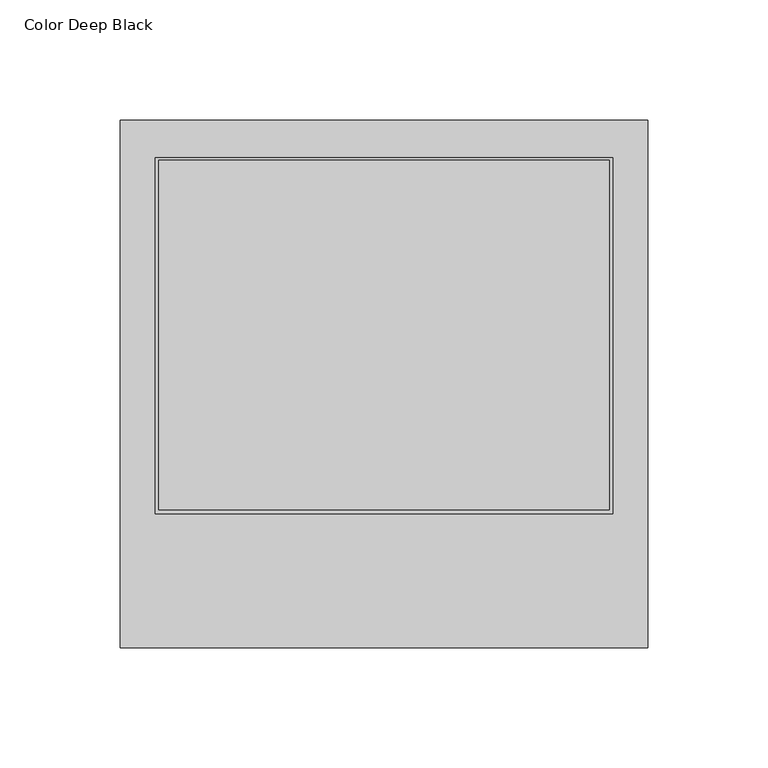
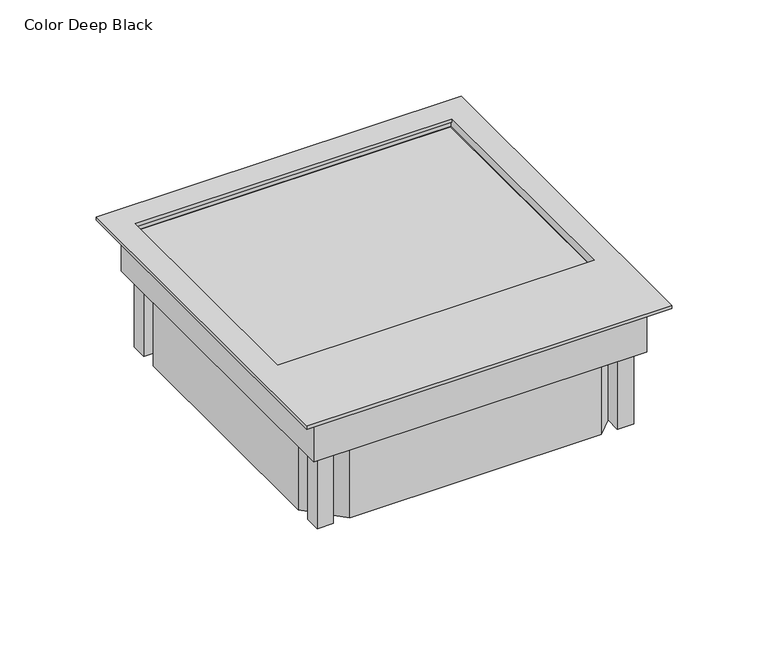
"""IFC4 building model written with IfcOpenShell, lengths in millimetres: proxy geometry, Electrical_Installation_Hager_VE-EE_Service-unit-VQ06 : Color Deep Black."""

from ifc_helpers import new_model, si_unit, frame, origin, place, context, project, spatial, polyline, outline, extrude, faceted_brep, source, transform, mapped, element, save


def color_deep_black_6ce427fe(model_context):
    return source(origin(), model_context, "Body", "SolidModel", [
        faceted_brep([(100.0, 100.0, -30.0), (100.0, -100.0, -30.0), (-100.0, -100.0, -30.0), (-100.0, 100.0, -30.0), (95.0, -85.25, -30.0), (95.0, 85.25, -30.0), (95.0, 95.0, -30.0), (85.25, 95.0, -30.0), (-85.25, 95.0, -30.0), (-95.0, 95.0, -30.0), (-95.0, 85.25, -30.0), (-95.0, -85.25, -30.0), (-95.0, -95.0, -30.0), (-85.25, -95.0, -30.0), (85.25, -95.0, -30.0), (95.0, -95.0, -30.0), (-100.0, 100.0, 0.0), (100.0, 100.0, 0.0), (-100.0, -100.0, 0.0), (100.0, -100.0, 0.0), (95.0, 95.0, -30.0), (95.0, 95.0, 0.0), (-95.0, 95.0, 0.0), (-95.0, 95.0, -30.0), (95.0, -95.0, -3.0), (-95.0, -95.0, -3.0), (-95.0, -53.875, -3.0), (95.0, -53.875, -3.0), (95.0, -95.0, -30.0), (-95.0, -95.0, -30.0), (109.5, 109.5, 2.0), (-109.5, 109.5, 2.0), (-109.5, -109.5, 2.0), (109.5, -109.5, 2.0), (95.0, 94.0, 2.0), (95.0, -53.875, 2.0), (-95.0, -53.875, 2.0), (-95.0, 94.0, 2.0), (95.0, 94.0, 0.0), (-95.0, 94.0, 0.0), (109.5, 109.5, 0.0), (109.5, -109.5, 0.0), (-109.5, -109.5, 0.0), (-109.5, 109.5, 0.0), (-85.25, 85.25, -30.0), (85.25, 85.25, -30.0), (-85.25, -85.25, -30.0), (85.25, -85.25, -30.0), (-85.25, 95.0, -77.0), (-85.25, 85.25, -77.0), (-95.0, 85.25, -77.0), (-95.0, 95.0, -77.0), (95.0, 95.0, -77.0), (95.0, 85.25, -77.0), (85.25, 85.25, -77.0), (85.25, 95.0, -77.0), (-85.25, -95.0, -77.0), (-95.0, -95.0, -77.0), (-95.0, -85.25, -77.0), (-85.25, -85.25, -77.0), (95.0, -95.0, -77.0), (85.25, -95.0, -77.0), (85.25, -85.25, -77.0), (95.0, -85.25, -77.0)], [[[0, 1, 2, 3], [4, 5, 6, 7, 8, 9, 10, 11, 12, 13, 14, 15]], [[0, 3, 16, 17]], [[3, 2, 18, 16]], [[2, 1, 19, 18]], [[1, 0, 17, 19]], [[20, 21, 22, 23, 8, 7]], [[24, 25, 26, 27]], [[25, 24, 28, 14, 13, 29]], [[30, 31, 32, 33], [34, 35, 36, 37]], [[38, 39, 22, 21]], [[40, 41, 42, 43], [17, 16, 18, 19]], [[34, 37, 39, 38]], [[37, 36, 26, 25, 29, 11, 10, 23, 22, 39]], [[36, 35, 27, 26]], [[35, 34, 38, 21, 20, 5, 4, 28, 24, 27]], [[31, 30, 40, 43]], [[32, 31, 43, 42]], [[33, 32, 42, 41]], [[30, 33, 41, 40]], [[10, 44, 8, 23]], [[7, 45, 5, 20]], [[13, 46, 11, 29]], [[4, 47, 14, 28]], [[48, 49, 50, 51]], [[52, 53, 54, 55]], [[56, 57, 58, 59]], [[60, 61, 62, 63]], [[48, 51, 9, 8]], [[51, 50, 10, 9]], [[44, 10, 50, 49]], [[8, 44, 49, 48]], [[52, 55, 7, 6]], [[45, 7, 55, 54]], [[5, 45, 54, 53]], [[53, 52, 6, 5]], [[46, 13, 56, 59]], [[11, 46, 59, 58]], [[58, 57, 12, 11]], [[57, 56, 13, 12]], [[60, 63, 4, 15]], [[47, 4, 63, 62]], [[14, 47, 62, 61]], [[61, 60, 15, 14]]]),
        extrude(outline(polyline([(-93.5, 93.0), (93.5, 93.0), (93.5, -52.3), (-93.5, -52.3), (-93.5, 93.0)])), frame((0.0, 0.0, -3.0), z_axis=(0.0, 0.0, 1.0), x_axis=(1.0, 0.0, 0.0)), (0.0, 0.0, 1.0), 1.0),
        extrude(outline(polyline([(-95.0, -75.5), (-95.0, 75.5), (-75.5, 95.0), (75.5, 95.0), (95.0, 75.5), (95.0, -75.5), (75.5, -95.0), (-75.5, -95.0), (-95.0, -75.5)]), holes=[polyline([(-90.0, -73.4289322), (-73.4289322, -90.0), (73.4289322, -90.0), (90.0, -73.4289322), (90.0, 73.4289322), (73.4289322, 90.0), (-73.4289322, 90.0), (-90.0, 73.4289322), (-90.0, -73.4289322)])]), frame((0.0, 0.0, -77.0), z_axis=(0.0, 0.0, 1.0), x_axis=(1.0, 0.0, 0.0)), (0.0, 0.0, 1.0), 47.0),
        extrude(outline(polyline([(-95.0, -95.0), (-95.0, 95.0), (95.0, 95.0), (95.0, -95.0), (-95.0, -95.0)])), frame((0.0, 0.0, -8.0), z_axis=(0.0, 0.0, 1.0), x_axis=(1.0, 0.0, 0.0)), (0.0, 0.0, 1.0), 5.0),
    ])


if __name__ == "__main__":
    model = new_model("IFC4")
    model_context = context("Model", 3, world=origin())
    ifc_project = project(units=[si_unit("LENGTHUNIT", "METRE", prefix="MILLI")], contexts=[model_context])
    site = spatial("IfcSite", under=ifc_project)
    building = spatial("IfcBuilding", under=site)
    placement = place(None, origin())
    color_deep_black_shape = color_deep_black_6ce427fe(model_context)
    element("IfcBuildingElementProxy", 1, Name="Electrical_Installation_Hager_VE-EE_Service-unit-VQ06 : Color Deep Black", ObjectType="Electrical_Installation_Hager_VE-EE_Service-unit-VQ06 : Color Deep Black", at=placement, inside=building, context=model_context, shape_type="MappedRepresentation", body=[
        mapped(color_deep_black_shape, transform((0.0, 0.0, 0.0), x_axis=(1.0, 0.0, 0.0), y_axis=(0.0, 1.0, 0.0), z_axis=(0.0, 0.0, 1.0))),
    ])
    save(model, "model.ifc")
